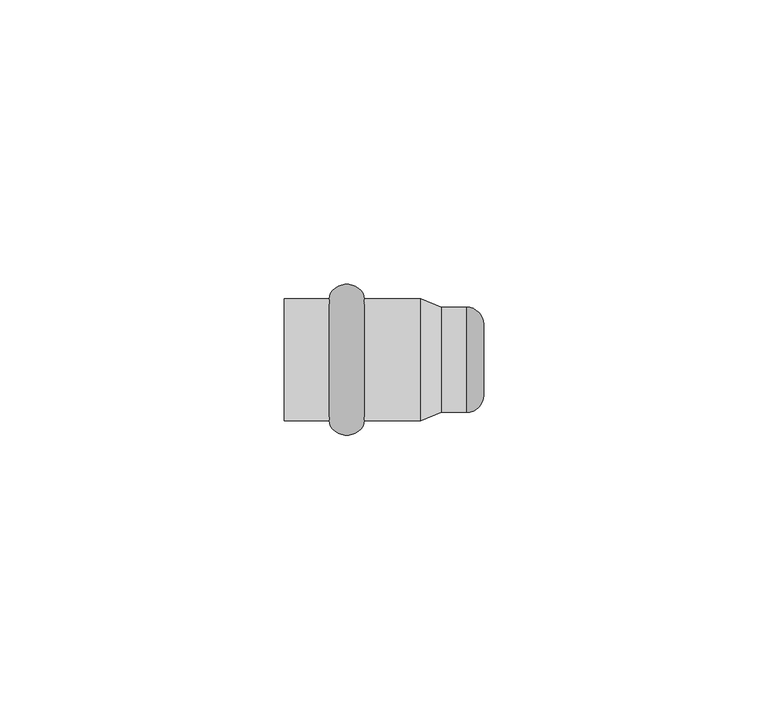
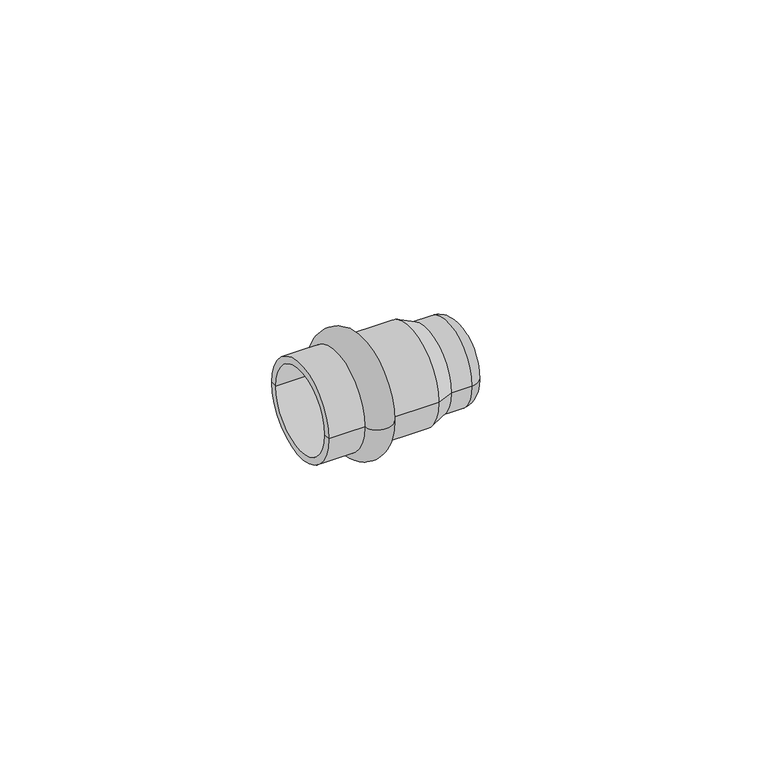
"""IFC4 building model written with IfcOpenShell, lengths in millimetres: pipe fitting geometry, РЕХАУ_Пресс Заглушка : Заглушка."""

from ifc_helpers import new_model, si_unit, point, frame, origin, place, context, project, spatial, polyline, circle_curve, ellipse_curve, trimmed, source, transform, mapped, element, save
from ifc_brep_helpers import plane_surface, cylinder_surface, revolved_surface, advanced_brep


def pipe_fitting_a9f968cd(model_context):
    return source(origin(), model_context, "Body", "AdvancedBrep", [
        advanced_brep(
        [(-16.1, 10.75, 0.0), (-16.1, -10.75, 0.0), (-10.0, -10.75, 0.0), (-10.0, 10.75, 0.0)],
        [
            (0, 1, circle_curve(frame((-16.1, 0.0, 0.0), z_axis=(-1.0, 0.0, 0.0), x_axis=(0.0, -1.0, 0.0)), 10.75)),
            (1, 2),
            (2, 3, circle_curve(frame((-10.0, 0.0, 0.0), z_axis=(1.0, 0.0, 0.0), x_axis=(0.0, -1.0, 0.0)), 10.75)),
            (3, 0),
            (1, 0, circle_curve(frame((-16.1, 0.0, 0.0), z_axis=(-1.0, 0.0, 0.0), x_axis=(0.0, -1.0, 0.0)), 10.75)),
            (3, 2, circle_curve(frame((-10.0, 0.0, 0.0), z_axis=(1.0, 0.0, 0.0), x_axis=(0.0, -1.0, 0.0)), 10.75)),
            (2, 1, ellipse_curve(frame((-13.05, -10.75, 0.0), z_axis=(0.0, 0.0, -1.0), x_axis=(-1.0, 0.0, 0.0)), 3.05, 2.5)),
            (0, 3, ellipse_curve(frame((-13.05, 10.75, 0.0), z_axis=(0.0, 0.0, -1.0), x_axis=(-1.0, 0.0, 0.0)), 3.05, 2.5)),
        ],
        [
            revolved_surface(polyline([(-10.0, -10.75, 0.0), (-16.1, -10.75, 0.0)]), (3.0, 0.0, 0.0), (1.0, 0.0, 0.0)),
            revolved_surface(trimmed(ellipse_curve(frame((-13.05, -10.75, 0.0), z_axis=(0.0, 0.0, 1.0), x_axis=(-1.0, 0.0, 0.0)), 3.05, 2.5), [point((-16.1, -10.75, 0.0))], [point((-10.0, -10.75, 0.0))], True, "CARTESIAN"), (3.0, 0.0, 0.0), (1.0, 0.0, 0.0)),
        ],
        [
            (0, [[1, 2, 3, 4]]),
            (0, [[5, -4, 6, -2]]),
            (1, [[-3, 7, -1, 8]]),
            (1, [[-6, -8, -5, -7]]),
        ],
    ),
        advanced_brep(
        [(3.5337785, 9.25, 0.0), (3.5337785, -9.25, 0.0), (0.0, -10.75, 0.0), (0.0, 10.75, 0.0), (-24.0, 9.25, 0.0), (-24.0, -9.25, 0.0), (-24.0, 10.75, 0.0), (-24.0, -10.75, 0.0)],
        [
            (0, 1, circle_curve(frame((3.5337785, 0.0, 0.0), z_axis=(-1.0, 0.0, 0.0), x_axis=(0.0, -1.0, 0.0)), 9.25)),
            (1, 2),
            (2, 3, circle_curve(frame((0.0, 0.0, 0.0), z_axis=(1.0, 0.0, 0.0), x_axis=(0.0, -1.0, 0.0)), 10.75)),
            (3, 0),
            (1, 0, circle_curve(frame((3.5337785, 0.0, 0.0), z_axis=(-1.0, 0.0, 0.0), x_axis=(0.0, -1.0, 0.0)), 9.25)),
            (3, 2, circle_curve(frame((0.0, 0.0, 0.0), z_axis=(1.0, 0.0, 0.0), x_axis=(0.0, -1.0, 0.0)), 10.75)),
            (4, 5, circle_curve(frame((-24.0, 0.0, 0.0), z_axis=(-1.0, 0.0, 0.0), x_axis=(0.0, -1.0, 0.0)), 9.25)),
            (5, 1),
            (0, 4),
            (5, 4, circle_curve(frame((-24.0, 0.0, 0.0), z_axis=(-1.0, 0.0, 0.0), x_axis=(0.0, -1.0, 0.0)), 9.25)),
            (6, 7, circle_curve(frame((-24.0, 0.0, 0.0), z_axis=(-1.0, 0.0, 0.0), x_axis=(0.0, -1.0, 0.0)), 10.75)),
            (7, 5),
            (4, 6),
            (7, 6, circle_curve(frame((-24.0, 0.0, 0.0), z_axis=(-1.0, 0.0, 0.0), x_axis=(0.0, -1.0, 0.0)), 10.75)),
            (2, 7),
            (6, 3),
        ],
        [
            revolved_surface(polyline([(0.0, -10.75, 0.0), (3.5337785, -9.25, 0.0)]), (3.0, 0.0, 0.0), (1.0, 0.0, 0.0)),
            revolved_surface(polyline([(3.5337785, -9.25, 0.0), (-24.0, -9.25, 0.0)]), (3.0, 0.0, 0.0), (1.0, 0.0, 0.0)),
            plane_surface(frame((-24.0, 0.0, 0.0), z_axis=(-1.0, 0.0, 0.0), x_axis=(0.0, -1.0, 0.0))),
            cylinder_surface(frame((3.0, 0.0, 0.0), z_axis=(1.0, 0.0, 0.0), x_axis=(0.0, -1.0, 0.0)), 10.75),
        ],
        [
            (0, [[1, 2, 3, 4]]),
            (0, [[5, -4, 6, -2]]),
            (1, [[7, 8, -1, 9]]),
            (1, [[10, -9, -5, -8]]),
            (2, [[11, 12, -7, 13]]),
            (2, [[14, -13, -10, -12]]),
            (3, [[-3, 15, -11, 16]]),
            (3, [[-6, -16, -14, -15]]),
        ],
    ),
        advanced_brep(
        [(11.0, -6.25, 0.0), (11.0, 6.25, 0.0), (0.0, -9.25, 0.0), (0.0, 9.25, 0.0), (8.0, 9.25, 0.0), (8.0, -9.25, 0.0)],
        [
            (0, 1, circle_curve(frame((11.0, 0.0, 0.0), z_axis=(1.0, 0.0, 0.0), x_axis=(0.0, 1.0, 0.0)), 6.25)),
            (1, 0, circle_curve(frame((11.0, 0.0, 0.0), z_axis=(1.0, 0.0, 0.0), x_axis=(0.0, -1.0, 0.0)), 6.25)),
            (2, 3, circle_curve(frame((0.0, 0.0, 0.0), z_axis=(-1.0, 0.0, 0.0), x_axis=(0.0, 1.0, 0.0)), 9.25)),
            (3, 2, circle_curve(frame((0.0, 0.0, 0.0), z_axis=(-1.0, 0.0, 0.0), x_axis=(0.0, 1.0, 0.0)), 9.25)),
            (3, 4),
            (4, 5, circle_curve(frame((8.0, 0.0, 0.0), z_axis=(-1.0, 0.0, 0.0), x_axis=(0.0, 1.0, 0.0)), 9.25)),
            (5, 2),
            (5, 4, circle_curve(frame((8.0, 0.0, 0.0), z_axis=(-1.0, 0.0, 0.0), x_axis=(0.0, 1.0, 0.0)), 9.25)),
            (0, 5, circle_curve(frame((8.0, -6.25, 0.0), z_axis=(0.0, 0.0, -1.0), x_axis=(0.0, -1.0, 0.0)), 3.0)),
            (4, 1, circle_curve(frame((8.0, 6.25, 0.0), z_axis=(0.0, 0.0, -1.0), x_axis=(0.0, 1.0, 0.0)), 3.0)),
        ],
        [
            plane_surface(frame((11.0, 9.25, 0.0), z_axis=(1.0, 0.0, 0.0), x_axis=(0.0, 0.0, 1.0))),
            plane_surface(frame((0.0, 9.25, 0.0), z_axis=(-1.0, 0.0, 0.0), x_axis=(0.0, 0.0, -1.0))),
            cylinder_surface(frame((0.0, 0.0, 0.0), z_axis=(1.0, 0.0, 0.0), x_axis=(0.0, 1.0, 0.0)), 9.25),
            revolved_surface(trimmed(ellipse_curve(frame((8.0, 6.25, 0.0), z_axis=(0.0, 0.0, 1.0), x_axis=(0.0, 1.0, 0.0)), 3.0, 3.0), [point((11.0, 6.25, 0.0))], [point((8.0, 9.25, 0.0))], True, "CARTESIAN"), (11.0, 0.0, 0.0), (-1.0, 0.0, 0.0)),
            revolved_surface(trimmed(ellipse_curve(frame((8.0, -6.25, 0.0), z_axis=(0.0, 0.0, -1.0), x_axis=(0.0, -1.0, 0.0)), 3.0, 3.0), [point((11.0, -6.25, 0.0))], [point((8.0, -9.25, 0.0))], True, "CARTESIAN"), (11.0, 0.0, 0.0), (-1.0, 0.0, 0.0)),
        ],
        [
            (0, [[1, 2]]),
            (1, [[3, 4]]),
            (2, [[-4, 5, 6, 7]]),
            (2, [[-3, -7, 8, -5]]),
            (3, [[9, -6, 10, -1]]),
            (4, [[-9, -2, -10, -8]]),
        ],
    ),
    ])


if __name__ == "__main__":
    model = new_model("IFC4")
    model_context = context("Model", 3, world=origin())
    ifc_project = project(units=[si_unit("LENGTHUNIT", "METRE", prefix="MILLI")], contexts=[model_context])
    site = spatial("IfcSite", under=ifc_project)
    building = spatial("IfcBuilding", under=site)
    placement = place(None, origin())
    pipe_fitting_shape = pipe_fitting_a9f968cd(model_context)
    element("IfcPipeFitting", 1, ObjectType="РЕХАУ_Пресс Заглушка : Заглушка", at=placement, inside=building, context=model_context, shape_type="MappedRepresentation", body=[
        mapped(pipe_fitting_shape, transform((0.0, 0.0, 0.0), x_axis=(1.0, 0.0, 0.0), y_axis=(0.0, 1.0, 0.0), z_axis=(0.0, 0.0, 1.0))),
    ])
    save(model, "model.ifc")
